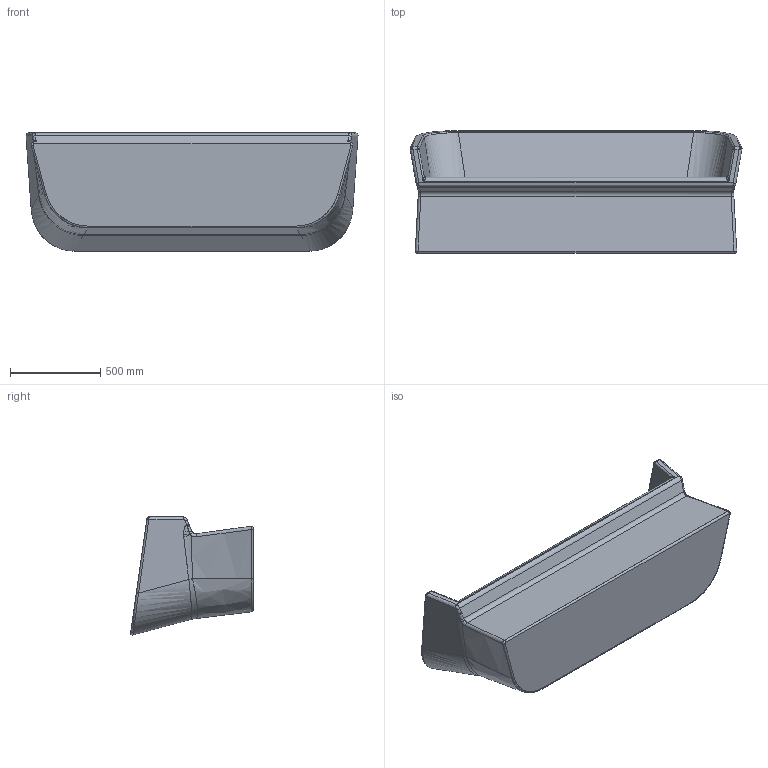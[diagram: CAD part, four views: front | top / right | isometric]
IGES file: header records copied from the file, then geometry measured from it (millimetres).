
Start section: SolidWorks IGES file using NURBS representation for surfaces
Global section: file name: G:\VICCARBE\PRODUCTOS\FAMILIAS 2D - 3D (PRODUCTOS VICCARBE)\3D (IGES + STL + DWG)\25-FEDELE\VICCARBE_Fedele_3D\01-IGES\VICCARBE_Fedele_sofa.IGS; native system: SolidWorks 2009; preprocessor: SolidWorks 2009; author: RUBEN; date: 110902.122915; units: millimetre
Bounding box: 1837.32 x 679.14 x 654.12 mm (x, y, z)
Surface area: 4977450.7 mm2 (no closed solid volume)
Topology: 0 solids, 0 shells, 101 faces, 1037 edges, 1032 vertices
Faces by surface type: bspline 101
